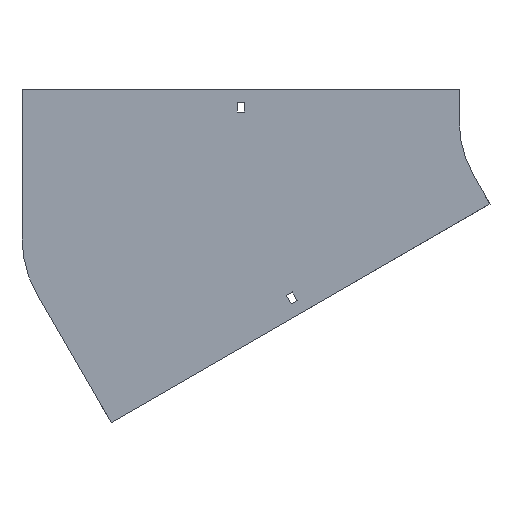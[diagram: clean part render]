
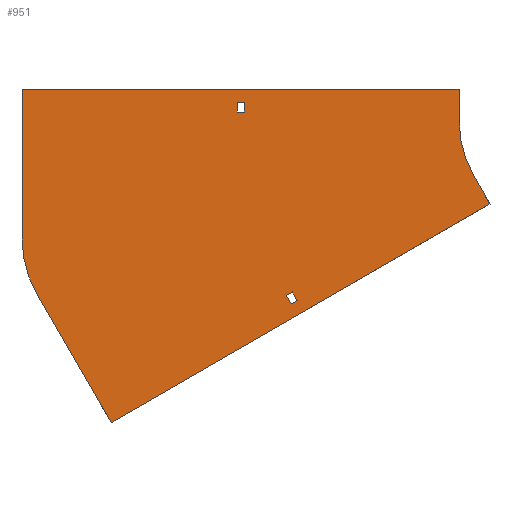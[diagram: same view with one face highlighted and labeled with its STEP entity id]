
A CAD part, front view. The second image highlights one B-rep face of the part: STEP entity #951.
In plain terms, the highlighted planar face has unit normal (0, -1, 0).
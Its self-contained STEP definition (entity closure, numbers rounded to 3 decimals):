
#8 = CARTESIAN_POINT ( 'NONE',  ( -421.477, 0., -277.981 ) ) ;
#11 = ORIENTED_EDGE ( 'NONE', *, *, #675, .T. ) ;
#14 = FACE_BOUND ( 'NONE', #121, .T. ) ;
#18 = VERTEX_POINT ( 'NONE', #517 ) ;
#24 = DIRECTION ( 'NONE',  ( 0., 0., 1. ) ) ;
#31 = DIRECTION ( 'NONE',  ( -0.5, 0., 0.866 ) ) ;
#37 = VERTEX_POINT ( 'NONE', #528 ) ;
#45 = ORIENTED_EDGE ( 'NONE', *, *, #1346, .F. ) ;
#50 = LINE ( 'NONE', #807, #764 ) ;
#57 = CARTESIAN_POINT ( 'NONE',  ( -259.854, 0., -160.419 ) ) ;
#76 = DIRECTION ( 'NONE',  ( 0., 0., -1. ) ) ;
#80 = DIRECTION ( 'NONE',  ( 0., 0., -1. ) ) ;
#81 = CIRCLE ( 'NONE', #266, 100. ) ;
#90 = EDGE_CURVE ( 'NONE', #863, #829, #828, .T. ) ;
#110 = VECTOR ( 'NONE', #669, 1000. ) ;
#121 = EDGE_LOOP ( 'NONE', ( #410, #365, #1143, #794 ) ) ;
#126 = EDGE_LOOP ( 'NONE', ( #925, #795, #1171, #45, #854, #964, #1228, #1381 ) ) ;
#132 = DIRECTION ( 'NONE',  ( -1., 0., 0. ) ) ;
#140 = DIRECTION ( 'NONE',  ( 0.5, 0., -0.866 ) ) ;
#155 = VECTOR ( 'NONE', #76, 1000. ) ;
#159 = CARTESIAN_POINT ( 'NONE',  ( -259.854, 0., -160.419 ) ) ;
#161 = DIRECTION ( 'NONE',  ( -0.866, 0., -0.5 ) ) ;
#170 = VERTEX_POINT ( 'NONE', #335 ) ;
#179 = EDGE_CURVE ( 'NONE', #1165, #435, #897, .T. ) ;
#180 = CARTESIAN_POINT ( 'NONE',  ( -86.603, 0., -50. ) ) ;
#192 = CARTESIAN_POINT ( 'NONE',  ( 0., 0., 0. ) ) ;
#213 = EDGE_LOOP ( 'NONE', ( #788, #252, #741, #11 ) ) ;
#223 = CARTESIAN_POINT ( 'NONE',  ( -254.225, 0., -157.169 ) ) ;
#252 = ORIENTED_EDGE ( 'NONE', *, *, #1344, .T. ) ;
#265 = CARTESIAN_POINT ( 'NONE',  ( -254.225, 0., -157.169 ) ) ;
#266 = AXIS2_PLACEMENT_3D ( 'NONE', #192, #301, #272 ) ;
#272 = DIRECTION ( 'NONE',  ( 0., 0., -1. ) ) ;
#275 = VECTOR ( 'NONE', #539, 1000. ) ;
#280 = EDGE_CURVE ( 'NONE', #170, #1078, #1307, .T. ) ;
#281 = CARTESIAN_POINT ( 'NONE',  ( -298.75, 0., 9. ) ) ;
#301 = DIRECTION ( 'NONE',  ( 0., -1., 0. ) ) ;
#335 = CARTESIAN_POINT ( 'NONE',  ( -255.354, 0., -168.213 ) ) ;
#336 = VECTOR ( 'NONE', #24, 1000. ) ;
#350 = LINE ( 'NONE', #707, #336 ) ;
#365 = ORIENTED_EDGE ( 'NONE', *, *, #680, .F. ) ;
#371 = CARTESIAN_POINT ( 'NONE',  ( -305.25, 0., 18. ) ) ;
#388 = CARTESIAN_POINT ( 'NONE',  ( -298.75, 0., 18. ) ) ;
#397 = CARTESIAN_POINT ( 'NONE',  ( -305.25, 0., 18. ) ) ;
#410 = ORIENTED_EDGE ( 'NONE', *, *, #280, .F. ) ;
#435 = VERTEX_POINT ( 'NONE', #726 ) ;
#453 = CARTESIAN_POINT ( 'NONE',  ( -100., 0., 0. ) ) ;
#462 = EDGE_CURVE ( 'NONE', #18, #1093, #1364, .T. ) ;
#470 = CARTESIAN_POINT ( 'NONE',  ( -249.725, 0., -164.963 ) ) ;
#481 = DIRECTION ( 'NONE',  ( -0.5, 0., 0.866 ) ) ;
#491 = VECTOR ( 'NONE', #513, 1000. ) ;
#499 = CARTESIAN_POINT ( 'NONE',  ( -305.25, 0., 9. ) ) ;
#506 = LINE ( 'NONE', #939, #491 ) ;
#509 = EDGE_CURVE ( 'NONE', #1205, #1019, #1385, .T. ) ;
#511 = CARTESIAN_POINT ( 'NONE',  ( -298.75, 0., 9. ) ) ;
#513 = DIRECTION ( 'NONE',  ( 1., 0., 0. ) ) ;
#517 = CARTESIAN_POINT ( 'NONE',  ( -100., 0., 30. ) ) ;
#528 = CARTESIAN_POINT ( 'NONE',  ( -490.603, 0., -158.251 ) ) ;
#531 = FACE_BOUND ( 'NONE', #213, .T. ) ;
#539 = DIRECTION ( 'NONE',  ( -0.866, 0., -0.5 ) ) ;
#562 = CARTESIAN_POINT ( 'NONE',  ( -259.854, 0., -160.419 ) ) ;
#563 = CARTESIAN_POINT ( 'NONE',  ( -504., 0., -108.251 ) ) ;
#597 = DIRECTION ( 'NONE',  ( 0., 0., 1. ) ) ;
#602 = DIRECTION ( 'NONE',  ( 0., 1., 0. ) ) ;
#662 = CARTESIAN_POINT ( 'NONE',  ( -255.354, 0., -168.213 ) ) ;
#669 = DIRECTION ( 'NONE',  ( 0., 0., 1. ) ) ;
#675 = EDGE_CURVE ( 'NONE', #829, #1350, #50, .T. ) ;
#676 = LINE ( 'NONE', #562, #1222 ) ;
#680 = EDGE_CURVE ( 'NONE', #1130, #170, #676, .T. ) ;
#688 = DIRECTION ( 'NONE',  ( 0.5, 0., -0.866 ) ) ;
#693 = AXIS2_PLACEMENT_3D ( 'NONE', #1145, #602, #597 ) ;
#704 = LINE ( 'NONE', #371, #1237 ) ;
#707 = CARTESIAN_POINT ( 'NONE',  ( -305.25, 0., 9. ) ) ;
#722 = VECTOR ( 'NONE', #161, 1000. ) ;
#726 = CARTESIAN_POINT ( 'NONE',  ( -504., 0., 30. ) ) ;
#736 = CARTESIAN_POINT ( 'NONE',  ( 0., 0., 0. ) ) ;
#739 = EDGE_CURVE ( 'NONE', #1350, #1316, #350, .T. ) ;
#741 = ORIENTED_EDGE ( 'NONE', *, *, #90, .T. ) ;
#764 = VECTOR ( 'NONE', #132, 1000. ) ;
#788 = ORIENTED_EDGE ( 'NONE', *, *, #739, .T. ) ;
#794 = ORIENTED_EDGE ( 'NONE', *, *, #1075, .F. ) ;
#795 = ORIENTED_EDGE ( 'NONE', *, *, #179, .F. ) ;
#801 = EDGE_CURVE ( 'NONE', #1010, #1130, #909, .T. ) ;
#803 = CARTESIAN_POINT ( 'NONE',  ( -421.477, 0., -277.981 ) ) ;
#807 = CARTESIAN_POINT ( 'NONE',  ( -305.25, 0., 9. ) ) ;
#811 = CARTESIAN_POINT ( 'NONE',  ( -71.603, 0., -75.981 ) ) ;
#828 = LINE ( 'NONE', #511, #155 ) ;
#829 = VERTEX_POINT ( 'NONE', #281 ) ;
#830 = VECTOR ( 'NONE', #31, 1000. ) ;
#851 = CARTESIAN_POINT ( 'NONE',  ( -100., 0., 30. ) ) ;
#854 = ORIENTED_EDGE ( 'NONE', *, *, #509, .F. ) ;
#863 = VERTEX_POINT ( 'NONE', #388 ) ;
#865 = DIRECTION ( 'NONE',  ( 0., -1., 0. ) ) ;
#872 = PLANE ( 'NONE',  #1087 ) ;
#888 = CARTESIAN_POINT ( 'NONE',  ( -71.603, 0., -75.981 ) ) ;
#897 = LINE ( 'NONE', #563, #110 ) ;
#902 = CIRCLE ( 'NONE', #693, 100. ) ;
#907 = LINE ( 'NONE', #1331, #1014 ) ;
#909 = LINE ( 'NONE', #57, #722 ) ;
#925 = ORIENTED_EDGE ( 'NONE', *, *, #1315, .F. ) ;
#939 = CARTESIAN_POINT ( 'NONE',  ( -504., 0., 30. ) ) ;
#951 = ADVANCED_FACE ( 'NONE', ( #531, #1073, #14 ), #872, .T. ) ;
#964 = ORIENTED_EDGE ( 'NONE', *, *, #1098, .F. ) ;
#993 = DIRECTION ( 'NONE',  ( 0.866, 0., 0.5 ) ) ;
#1010 = VERTEX_POINT ( 'NONE', #223 ) ;
#1011 = LINE ( 'NONE', #265, #830 ) ;
#1014 = VECTOR ( 'NONE', #688, 1000. ) ;
#1019 = VERTEX_POINT ( 'NONE', #8 ) ;
#1073 = FACE_OUTER_BOUND ( 'NONE', #126, .T. ) ;
#1075 = EDGE_CURVE ( 'NONE', #1078, #1010, #1011, .T. ) ;
#1078 = VERTEX_POINT ( 'NONE', #470 ) ;
#1087 = AXIS2_PLACEMENT_3D ( 'NONE', #736, #865, #1181 ) ;
#1093 = VERTEX_POINT ( 'NONE', #453 ) ;
#1098 = EDGE_CURVE ( 'NONE', #1220, #1205, #907, .T. ) ;
#1118 = CARTESIAN_POINT ( 'NONE',  ( -504., 0., -108.251 ) ) ;
#1130 = VERTEX_POINT ( 'NONE', #159 ) ;
#1137 = LINE ( 'NONE', #803, #1258 ) ;
#1143 = ORIENTED_EDGE ( 'NONE', *, *, #801, .F. ) ;
#1145 = CARTESIAN_POINT ( 'NONE',  ( -404., 0., -108.251 ) ) ;
#1165 = VERTEX_POINT ( 'NONE', #1118 ) ;
#1171 = ORIENTED_EDGE ( 'NONE', *, *, #1227, .F. ) ;
#1181 = DIRECTION ( 'NONE',  ( 0., 0., -1. ) ) ;
#1205 = VERTEX_POINT ( 'NONE', #811 ) ;
#1220 = VERTEX_POINT ( 'NONE', #180 ) ;
#1222 = VECTOR ( 'NONE', #140, 1000. ) ;
#1227 = EDGE_CURVE ( 'NONE', #37, #1165, #902, .T. ) ;
#1228 = ORIENTED_EDGE ( 'NONE', *, *, #1259, .F. ) ;
#1237 = VECTOR ( 'NONE', #1345, 1000. ) ;
#1258 = VECTOR ( 'NONE', #481, 1000. ) ;
#1259 = EDGE_CURVE ( 'NONE', #1093, #1220, #81, .T. ) ;
#1263 = VECTOR ( 'NONE', #993, 1000. ) ;
#1307 = LINE ( 'NONE', #662, #1263 ) ;
#1315 = EDGE_CURVE ( 'NONE', #435, #18, #506, .T. ) ;
#1316 = VERTEX_POINT ( 'NONE', #397 ) ;
#1328 = VECTOR ( 'NONE', #80, 1000. ) ;
#1331 = CARTESIAN_POINT ( 'NONE',  ( -86.603, 0., -50. ) ) ;
#1344 = EDGE_CURVE ( 'NONE', #1316, #863, #704, .T. ) ;
#1345 = DIRECTION ( 'NONE',  ( 1., 0., 0. ) ) ;
#1346 = EDGE_CURVE ( 'NONE', #1019, #37, #1137, .T. ) ;
#1350 = VERTEX_POINT ( 'NONE', #499 ) ;
#1364 = LINE ( 'NONE', #851, #1328 ) ;
#1381 = ORIENTED_EDGE ( 'NONE', *, *, #462, .F. ) ;
#1385 = LINE ( 'NONE', #888, #275 ) ;
